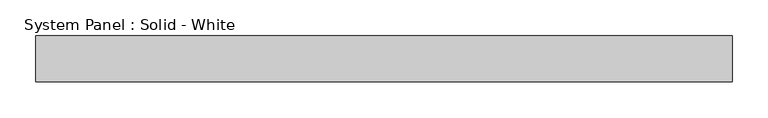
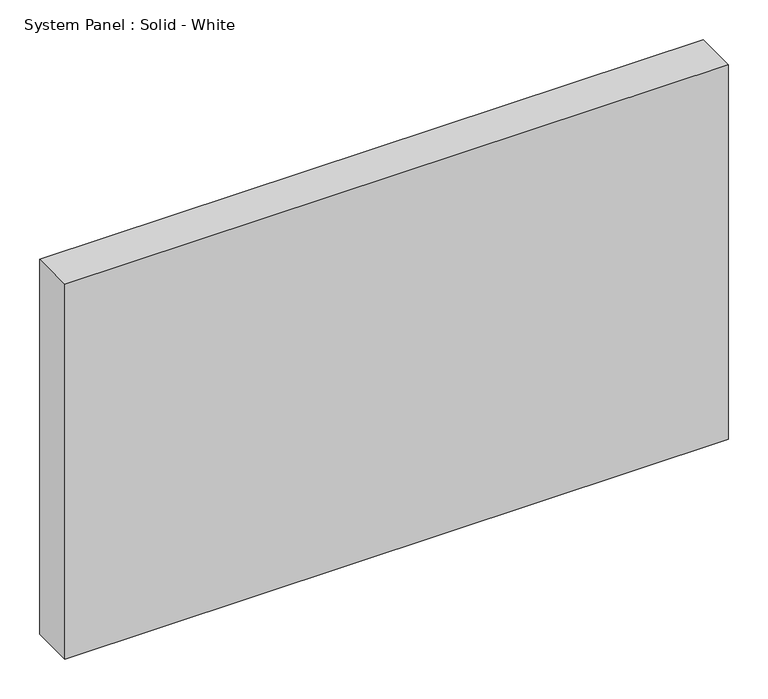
"""IFC4 building model written with IfcOpenShell, lengths in millimetres: plate geometry, System Panel : Solid - White."""

from ifc_helpers import new_model, si_unit, origin, origin_with_axes, place, context, project, spatial, polyline, outline, extrude, source, transform, mapped, element, save


def system_panel_solid_white_50add86f(model_context):
    return source(origin(), model_context, "Body", "SweptSolid", [
        extrude(outline(polyline([(484.1041768, -19.05), (-484.1041768, -19.05), (-484.1041768, 44.45), (484.1041768, 44.45), (484.1041768, -19.05)])), origin_with_axes(), (0.0, 0.0, 1.0), 577.85),
    ])


if __name__ == "__main__":
    model = new_model("IFC4")
    model_context = context("Model", 3, world=origin())
    ifc_project = project(units=[si_unit("LENGTHUNIT", "METRE", prefix="MILLI")], contexts=[model_context])
    site = spatial("IfcSite", under=ifc_project)
    building = spatial("IfcBuilding", under=site)
    placement = place(None, origin())
    system_panel_solid_white_shape = system_panel_solid_white_50add86f(model_context)
    element("IfcPlate", 1, ObjectType="System Panel : Solid - White", at=placement, inside=building, context=model_context, shape_type="MappedRepresentation", body=[
        mapped(system_panel_solid_white_shape, transform((0.0, 0.0, 0.0), x_axis=(1.0, 0.0, 0.0), y_axis=(0.0, 1.0, 0.0), z_axis=(0.0, 0.0, 1.0))),
    ])
    save(model, "model.ifc")
